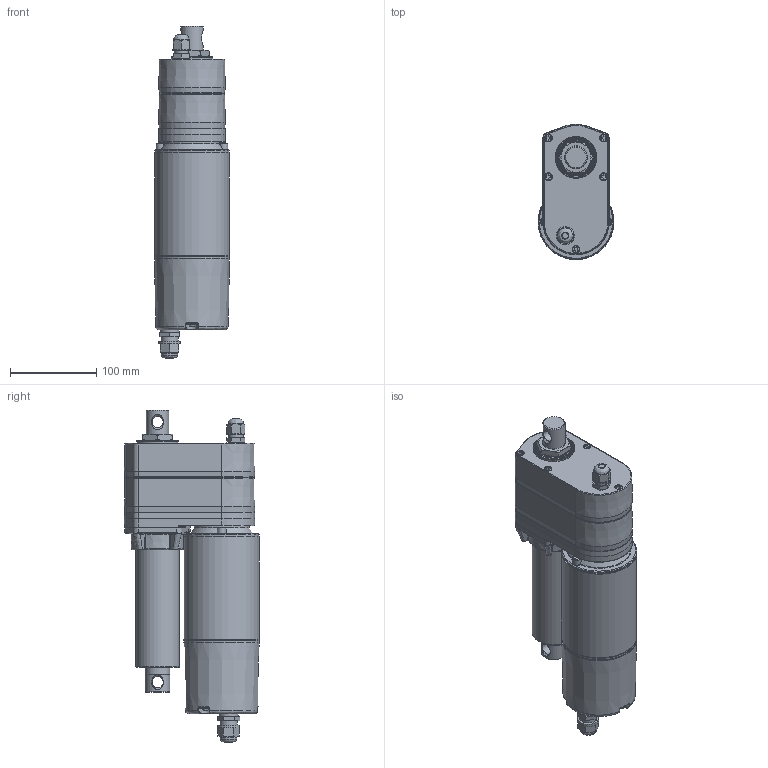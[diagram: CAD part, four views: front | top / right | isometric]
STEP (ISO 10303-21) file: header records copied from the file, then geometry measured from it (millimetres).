
FILE_DESCRIPTION (( 'STEP AP203' ), '1' );
FILE_NAME ('IA05-A-With POT-102.STEP', '2014-06-06T09:42:08', ( '' ), ( '' ), 'SwSTEP 2.0', 'SolidWorks 2013', '' );
FILE_SCHEMA (( 'CONFIG_CONTROL_DESIGN' ));
Length unit declared in the file: millimetre
Products named in the file (3): IA05-A-With POT-102-2; IA05-A-With POT-102; IA05-A-With POT-102-1
Assembly tree (2 placements, depth 2):
  IA05-A-With POT-102
    IA05-A-With POT-102-1
    IA05-A-With POT-102-2
Bounding box: 88 x 157.08 x 385.7 mm (x, y, z)
Volume: 2719983.3 mm3; surface area: 194429.4 mm2
Topology: 2 solids, 2 shells, 1030 faces, 2640 edges, 1653 vertices
Faces by surface type: plane 604, bspline 201, cylinder 176, cone 49
Full cylindrical faces by diameter (mm): 7 x4, 8.5 x6, 9 x5, 13 x2, 16.5 x2, 18 x1, 19 x1, 20 x1, 21 x1, 22 x1, 25 x1, 26 x1, 28 x1, 28.1 x1, 28.6 x3, 28.62 x1, 48.2 x1, 50.8 x1, 63.5 x1, 87 x3, 88 x3
Entity records: 37961 total; most frequent: CARTESIAN_POINT 16151, ORIENTED_EDGE 5072, DIRECTION 3784, EDGE_CURVE 2536, VERTEX_POINT 1624, AXIS2_PLACEMENT_3D 1376, EDGE_LOOP 1148, FACE_OUTER_BOUND 1085
